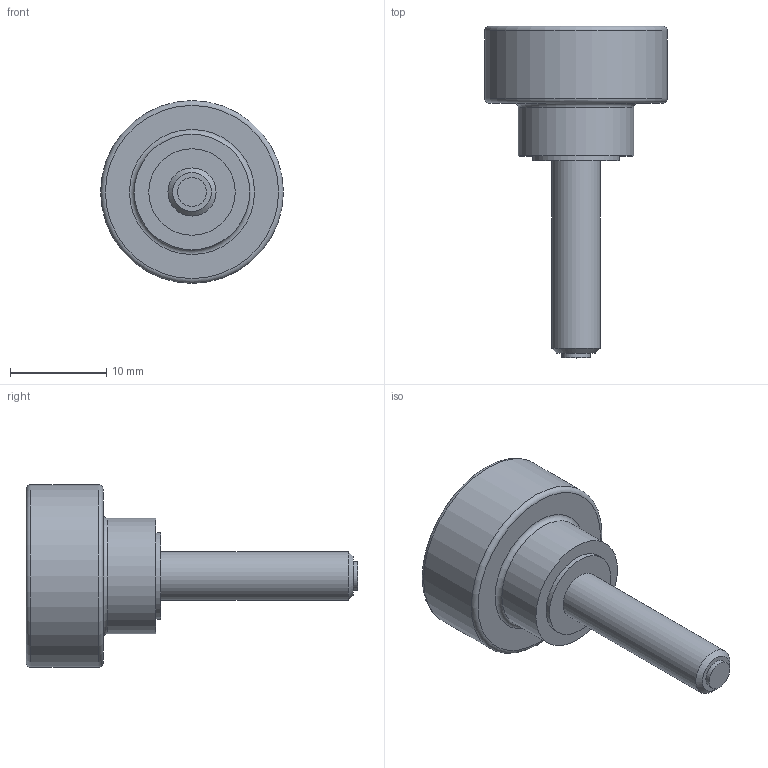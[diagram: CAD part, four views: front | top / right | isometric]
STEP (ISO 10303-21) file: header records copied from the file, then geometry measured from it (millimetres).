
FILE_DESCRIPTION( ( 'STEP AP203' ), '1' );
FILE_NAME( 'C:/Temp/Ganter_Step_05_03_2020/data/2_2/gn_421_10/Hollow knurled knob, with tip GN 421.10-M5-20-MS.stp', '2020-03-05T12:25:31', ( 'License CC BY-ND 4.0' ), ( 'CADENAS' ), ' ', 'PARTsolutions', ' ' );
FILE_SCHEMA( ( 'CONFIG_CONTROL_DESIGN' ) );
Length unit declared in the file: millimetre
Products named in the file (1): _Hollow knurled knob, with tip GN 421.10-M5-20-MS
Bounding box: 19 x 34.5 x 19 mm (x, y, z)
Volume: 2307 mm3; surface area: 1847.9 mm2
Topology: 1 solids, 1 shells, 19 faces, 30 edges, 19 vertices
Faces by surface type: plane 8, cylinder 7, torus 3, cone 1
Full cylindrical faces by diameter (mm): 3 x1, 5 x1, 8 x1, 9 x1, 12 x1, 16 x1, 19 x1
Entity records: 418 total; most frequent: DIRECTION 76, CARTESIAN_POINT 56, AXIS2_PLACEMENT_3D 38, EDGE_LOOP 36, ORIENTED_EDGE 36, FACE_OUTER_BOUND 29, ADVANCED_FACE 19, EDGE_CURVE 18
